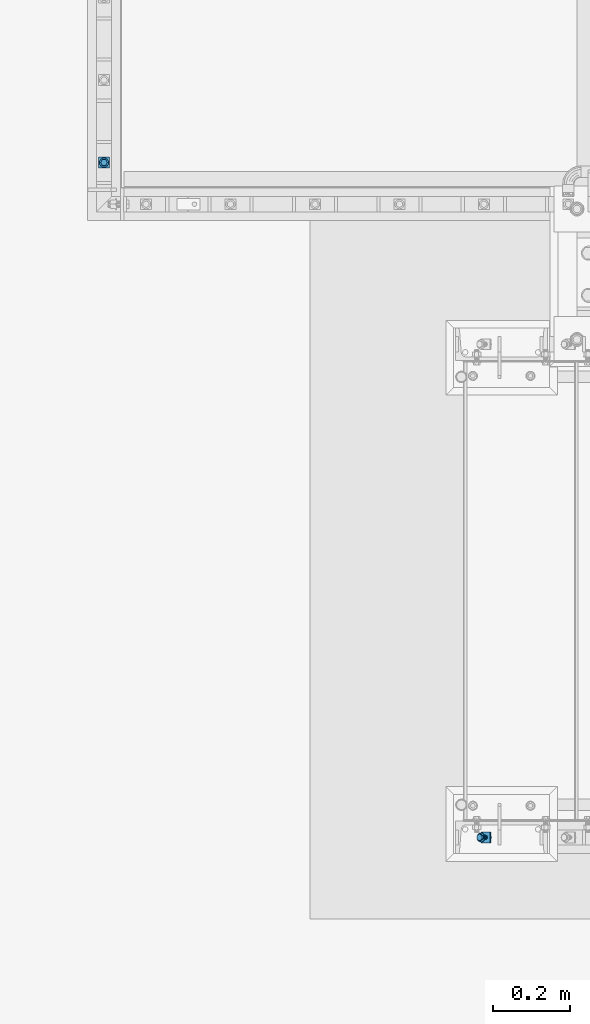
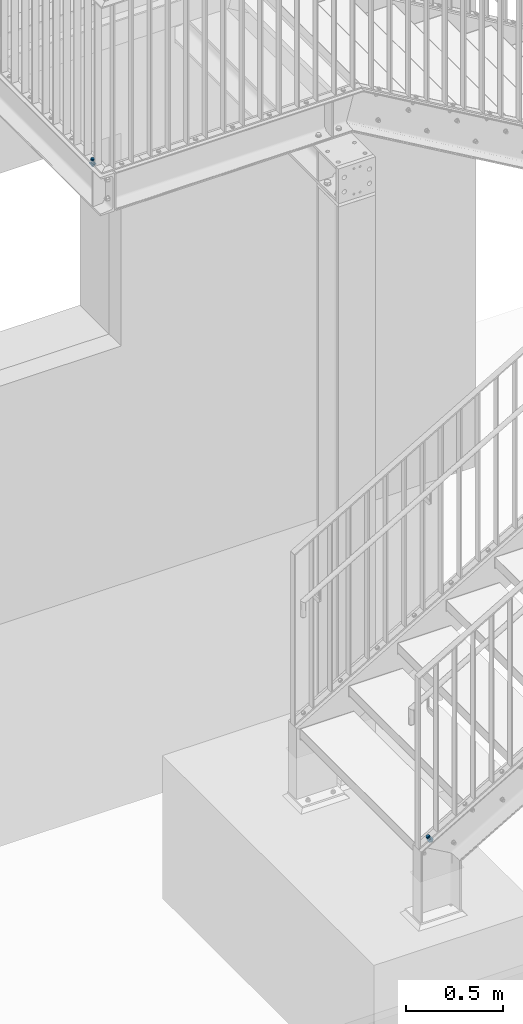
# One storey, part 46 of 145: 2 mechanical fasteners.
"""IFC2X3 building model written with IfcOpenShell, lengths in millimetres."""

from ifc_helpers import new_model, entity, si_unit, converted_unit, origin_with_axes, place, context, project, spatial, faceted_brep, element, save


model = new_model("IFC2X3")

# Units and contexts
model_context = context("Model", 3, precision=1e-09, world=origin_with_axes())
ifc_project = project(units=[si_unit("LENGTHUNIT", "METRE", prefix="MILLI"), si_unit("AREAUNIT", "SQUARE_METRE"), si_unit("VOLUMEUNIT", "CUBIC_METRE"), converted_unit("PLANEANGLEUNIT", "DEGREE", entity("IfcPlaneAngleMeasure", 0.01745329), si_unit("PLANEANGLEUNIT", "RADIAN"), dimensions=[0, 0, 0, 0, 0, 0, 0])], contexts=[model_context])

# Site, building, storey
site_placement = place(None, origin_with_axes())
site = spatial("IfcSite", under=ifc_project, at=site_placement, Name="BZ1 Grund- und Mittelschule 85716 Unterschlei?heim", CompositionType="ELEMENT")
building_placement = place(site_placement, origin_with_axes())
building = spatial("IfcBuilding", under=site, at=building_placement, Name="Struktur 1", CompositionType="ELEMENT")
storey_placement = place(building_placement, origin_with_axes())
storey = spatial("IfcBuildingStorey", under=building, at=storey_placement, Name="Default Storey", CompositionType="ELEMENT", Elevation=0.0)

# Mechanical fasteners
mechanical_fastener_1_placement = place(None, origin_with_axes())
element("IfcMechanicalFastener", 1, at=mechanical_fastener_1_placement, inside=storey, ObjectType="-", NominalDiameter=12.0, NominalLength=45.0, context=model_context, shape_type="Brep", body=[
    faceted_brep([(16699.692769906, -3162.502, -238.779049), (16700.949497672, -3162.502, -240.94021427), (16701.148823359, -3164.843083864, -240.824305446), (16699.892095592, -3164.843083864, -238.663140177), (16701.739140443, -3167.094201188, -240.481033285), (16700.482412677, -3167.094201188, -238.319868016), (16702.697763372, -3169.168842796, -239.923589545), (16701.441035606, -3169.168842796, -237.762424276), (16703.987852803, -3170.987281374, -239.173396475), (16702.731125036, -3170.987281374, -237.012231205), (16705.559831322, -3172.479635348, -238.259283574), (16704.303103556, -3172.479635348, -236.098118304), (16707.353288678, -3173.58855439, -237.216379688), (16706.096560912, -3173.58855439, -235.055214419), (16709.299303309, -3174.271423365, -236.08476303), (16708.042575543, -3174.271423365, -233.92359776), (16711.323090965, -3174.502, -234.907920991), (16710.066363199, -3174.502, -232.746755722), (16713.346878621, -3174.271423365, -233.731078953), (16712.090150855, -3174.271423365, -231.569913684), (16715.292893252, -3173.58855439, -232.599462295), (16714.036165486, -3173.58855439, -230.438297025), (16717.086350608, -3172.479635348, -231.556558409), (16715.829622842, -3172.479635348, -229.39539314), (16718.658329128, -3170.987281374, -230.642445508), (16717.401601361, -3170.987281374, -228.481280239), (16719.948418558, -3169.168842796, -229.892252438), (16718.691690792, -3169.168842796, -227.731087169), (16720.907041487, -3167.094201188, -229.334808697), (16719.650313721, -3167.094201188, -227.173643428), (16721.497358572, -3164.843083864, -228.991536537), (16720.240630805, -3164.843083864, -226.830371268), (16721.696684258, -3162.502, -228.875627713), (16720.439956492, -3162.502, -226.714462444), (16721.497358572, -3160.160916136, -228.991536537), (16720.240630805, -3160.160916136, -226.830371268), (16720.907041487, -3157.909798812, -229.334808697), (16719.650313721, -3157.909798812, -227.173643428), (16719.948418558, -3155.835157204, -229.892252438), (16718.691690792, -3155.835157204, -227.731087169), (16718.658329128, -3154.016718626, -230.642445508), (16717.401601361, -3154.016718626, -228.481280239), (16717.086350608, -3152.524364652, -231.556558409), (16715.829622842, -3152.524364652, -229.39539314), (16715.292893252, -3151.41544561, -232.599462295), (16714.036165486, -3151.41544561, -230.438297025), (16713.346878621, -3150.732576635, -233.731078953), (16712.090150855, -3150.732576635, -231.569913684), (16711.323090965, -3150.502, -234.907920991), (16710.066363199, -3150.502, -232.746755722), (16709.299303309, -3150.732576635, -236.08476303), (16708.042575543, -3150.732576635, -233.92359776), (16707.353288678, -3151.41544561, -237.216379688), (16706.096560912, -3151.41544561, -235.055214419), (16705.559831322, -3152.524364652, -238.259283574), (16704.303103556, -3152.524364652, -236.098118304), (16703.987852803, -3154.016718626, -239.173396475), (16702.731125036, -3154.016718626, -237.012231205), (16702.697763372, -3155.835157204, -239.923589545), (16701.441035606, -3155.835157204, -237.762424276), (16701.739140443, -3157.909798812, -240.481033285), (16700.482412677, -3157.909798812, -238.319868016), (16701.148823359, -3160.160916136, -240.824305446), (16699.892095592, -3160.160916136, -238.663140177)], [[[0, 1, 2, 3]], [[3, 2, 4, 5]], [[5, 4, 6, 7]], [[7, 6, 8, 9]], [[9, 8, 10, 11]], [[11, 10, 12, 13]], [[13, 12, 14, 15]], [[15, 14, 16, 17]], [[17, 16, 18, 19]], [[19, 18, 20, 21]], [[21, 20, 22, 23]], [[23, 22, 24, 25]], [[25, 24, 26, 27]], [[27, 26, 28, 29]], [[29, 28, 30, 31]], [[31, 30, 32, 33]], [[33, 32, 34, 35]], [[35, 34, 36, 37]], [[37, 36, 38, 39]], [[39, 38, 40, 41]], [[41, 40, 42, 43]], [[43, 42, 44, 45]], [[45, 44, 46, 47]], [[47, 46, 48, 49]], [[49, 48, 50, 51]], [[51, 50, 52, 53]], [[53, 52, 54, 55]], [[55, 54, 56, 57]], [[57, 56, 58, 59]], [[59, 58, 60, 61]], [[61, 60, 62, 63]], [[63, 62, 1, 0]], [[0, 3, 5, 7, 9, 11, 13, 15, 17, 19, 21, 23, 25, 27, 29, 31, 33, 35, 37, 39, 41, 43, 45, 47, 49, 51, 53, 55, 57, 59, 61, 63]], [[1, 62, 60, 58, 56, 54, 52, 50, 48, 46, 44, 42, 40, 38, 36, 34, 32, 30, 28, 26, 24, 22, 20, 18, 16, 14, 12, 10, 8, 6, 4, 2]]]),
    faceted_brep([(16716.718114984, -3166.9445, -228.878730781), (16713.500891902, -3166.9445, -223.346147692), (16706.849140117, -3171.387, -227.214172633), (16710.066363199, -3171.387, -232.746755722), (16700.197388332, -3166.9445, -231.082197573), (16703.414611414, -3166.9445, -236.614780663), (16700.197388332, -3158.0595, -231.082197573), (16703.414611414, -3158.0595, -236.614780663), (16706.849140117, -3153.617, -227.214172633), (16710.066363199, -3153.617, -232.746755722), (16713.500891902, -3158.0595, -223.346147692), (16716.718114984, -3158.0595, -228.878730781)], [[[0, 1, 2, 3]], [[3, 2, 4, 5]], [[5, 4, 6, 7]], [[7, 6, 8, 9]], [[9, 8, 10, 11]], [[11, 10, 1, 0]], [[4, 2, 1, 10, 8, 6]], [[0, 3, 5, 7, 9, 11]]]),
    faceted_brep([(16706.136294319, -3162.502, -237.924067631), (16717.117086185, -3162.502, -256.807477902), (16717.511907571, -3164.798100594, -256.57788741), (16706.531115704, -3164.798100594, -237.694477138), (16718.63626375, -3166.744640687, -255.924069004), (16707.655471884, -3166.744640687, -237.040658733), (16720.318981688, -3168.045277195, -254.945560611), (16709.338189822, -3168.045277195, -236.06215034), (16722.303882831, -3168.502, -253.791331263), (16711.323090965, -3168.502, -234.907920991), (16724.288783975, -3168.045277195, -252.637101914), (16713.307992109, -3168.045277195, -233.753691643), (16725.971501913, -3166.744640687, -251.658593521), (16714.990710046, -3166.744640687, -232.77518325), (16727.095858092, -3164.798100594, -251.004775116), (16716.115066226, -3164.798100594, -232.121364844), (16727.490679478, -3162.502, -250.775184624), (16716.509887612, -3162.502, -231.891774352), (16727.095858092, -3160.205899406, -251.004775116), (16716.115066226, -3160.205899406, -232.121364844), (16725.971501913, -3158.259359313, -251.658593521), (16714.990710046, -3158.259359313, -232.77518325), (16724.288783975, -3156.958722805, -252.637101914), (16713.307992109, -3156.958722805, -233.753691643), (16722.303882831, -3156.502, -253.791331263), (16711.323090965, -3156.502, -234.907920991), (16720.318981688, -3156.958722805, -254.945560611), (16709.338189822, -3156.958722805, -236.06215034), (16718.63626375, -3158.259359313, -255.924069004), (16707.655471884, -3158.259359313, -237.040658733), (16717.511907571, -3160.205899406, -256.57788741), (16706.531115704, -3160.205899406, -237.694477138)], [[[0, 1, 2, 3]], [[3, 2, 4, 5]], [[5, 4, 6, 7]], [[7, 6, 8, 9]], [[9, 8, 10, 11]], [[11, 10, 12, 13]], [[13, 12, 14, 15]], [[15, 14, 16, 17]], [[17, 16, 18, 19]], [[19, 18, 20, 21]], [[21, 20, 22, 23]], [[23, 22, 24, 25]], [[25, 24, 26, 27]], [[27, 26, 28, 29]], [[29, 28, 30, 31]], [[31, 30, 1, 0]], [[0, 3, 5, 7, 9, 11, 13, 15, 17, 19, 21, 23, 25, 27, 29, 31]], [[1, 30, 28, 26, 24, 22, 20, 18, 16, 14, 12, 10, 8, 6, 4, 2]]]),
    faceted_brep([(16736.540044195, -3176.644135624, -250.140069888), (16734.529279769, -3176.644135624, -246.682205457), (16710.078485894, -3176.644135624, -260.900457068), (16712.08925032, -3176.644135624, -264.358321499), (16710.078485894, -3148.359864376, -260.900457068), (16712.08925032, -3148.359864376, -264.358321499), (16734.529279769, -3148.359864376, -246.682205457), (16736.540044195, -3148.359864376, -250.140069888)], [[[0, 1, 2, 3]], [[3, 2, 4, 5]], [[5, 4, 6, 7]], [[7, 6, 1, 0]], [[4, 2, 1, 6]], [[0, 3, 5, 7]]]),
    faceted_brep([(16737.239811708, -3167.777, -261.300985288), (16732.212900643, -3167.777, -252.656324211), (16724.314647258, -3173.052, -257.249195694), (16729.341558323, -3173.052, -265.893856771), (16716.416393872, -3167.777, -261.842067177), (16721.443304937, -3167.777, -270.486728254), (16716.416393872, -3157.227, -261.842067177), (16721.443304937, -3157.227, -270.486728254), (16724.314647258, -3151.952, -257.249195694), (16729.341558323, -3151.952, -265.893856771), (16732.212900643, -3157.227, -252.656324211), (16737.239811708, -3157.227, -261.300985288)], [[[0, 1, 2, 3]], [[3, 2, 4, 5]], [[5, 4, 6, 7]], [[7, 6, 8, 9]], [[9, 8, 10, 11]], [[11, 10, 1, 0]], [[4, 2, 1, 10, 8, 6]], [[0, 3, 5, 7, 9, 11]]]),
    faceted_brep([(16724.154761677, -3162.502, -268.91000341), (16727.500666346, -3162.502, -274.663877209), (16727.895487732, -3164.798100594, -274.434286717), (16724.549583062, -3164.798100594, -268.680412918), (16729.019843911, -3166.744640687, -273.780468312), (16725.673939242, -3166.744640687, -268.026594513), (16730.702561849, -3168.045277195, -272.801959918), (16727.356657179, -3168.045277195, -267.048086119), (16732.687462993, -3168.502, -271.64773057), (16729.341558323, -3168.502, -265.893856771), (16734.672364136, -3168.045277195, -270.493501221), (16731.326459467, -3168.045277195, -264.739627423), (16736.355082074, -3166.744640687, -269.514992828), (16733.009177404, -3166.744640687, -263.761119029), (16737.479438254, -3164.798100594, -268.861174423), (16734.133533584, -3164.798100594, -263.107300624), (16737.874259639, -3162.502, -268.631583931), (16734.528354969, -3162.502, -262.877710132), (16737.479438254, -3160.205899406, -268.861174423), (16734.133533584, -3160.205899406, -263.107300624), (16736.355082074, -3158.259359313, -269.514992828), (16733.009177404, -3158.259359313, -263.761119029), (16734.672364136, -3156.958722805, -270.493501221), (16731.326459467, -3156.958722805, -264.739627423), (16732.687462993, -3156.502, -271.64773057), (16729.341558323, -3156.502, -265.893856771), (16730.702561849, -3156.958722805, -272.801959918), (16727.356657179, -3156.958722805, -267.048086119), (16729.019843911, -3158.259359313, -273.780468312), (16725.673939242, -3158.259359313, -268.026594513), (16727.895487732, -3160.205899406, -274.434286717), (16724.549583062, -3160.205899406, -268.680412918)], [[[0, 1, 2, 3]], [[3, 2, 4, 5]], [[5, 4, 6, 7]], [[7, 6, 8, 9]], [[9, 8, 10, 11]], [[11, 10, 12, 13]], [[13, 12, 14, 15]], [[15, 14, 16, 17]], [[17, 16, 18, 19]], [[19, 18, 20, 21]], [[21, 20, 22, 23]], [[23, 22, 24, 25]], [[25, 24, 26, 27]], [[27, 26, 28, 29]], [[29, 28, 30, 31]], [[31, 30, 1, 0]], [[0, 3, 5, 7, 9, 11, 13, 15, 17, 19, 21, 23, 25, 27, 29, 31]], [[1, 30, 28, 26, 24, 22, 20, 18, 16, 14, 12, 10, 8, 6, 4, 2]]]),
])
mechanical_fastener_2_placement = place(None, origin_with_axes())
element("IfcMechanicalFastener", 2, at=mechanical_fastener_2_placement, inside=storey, ObjectType="-", NominalDiameter=12.0, NominalLength=45.0, context=model_context, shape_type="Brep", body=[
    faceted_brep([(15728.34372732, -1416.009817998, 3308.000000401), (15728.34372732, -1416.009817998, 3310.500000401), (15726.002643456, -1415.779241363, 3310.500000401), (15726.002643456, -1415.779241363, 3308.000000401), (15723.751526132, -1415.096372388, 3310.500000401), (15723.751526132, -1415.096372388, 3308.000000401), (15721.676884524, -1413.987453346, 3310.500000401), (15721.676884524, -1413.987453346, 3308.000000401), (15719.858445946, -1412.495099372, 3310.500000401), (15719.858445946, -1412.495099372, 3308.000000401), (15718.366091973, -1410.676660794, 3310.500000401), (15718.366091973, -1410.676660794, 3308.000000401), (15717.25717293, -1408.602019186, 3310.500000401), (15717.25717293, -1408.602019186, 3308.000000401), (15716.574303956, -1406.350901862, 3310.500000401), (15716.574303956, -1406.350901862, 3308.000000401), (15716.34372732, -1404.009817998, 3310.500000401), (15716.34372732, -1404.009817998, 3308.000000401), (15716.574303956, -1401.668734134, 3310.500000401), (15716.574303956, -1401.668734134, 3308.000000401), (15717.25717293, -1399.41761681, 3310.500000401), (15717.25717293, -1399.41761681, 3308.000000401), (15718.366091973, -1397.342975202, 3310.500000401), (15718.366091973, -1397.342975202, 3308.000000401), (15719.858445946, -1395.524536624, 3310.500000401), (15719.858445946, -1395.524536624, 3308.000000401), (15721.676884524, -1394.03218265, 3310.500000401), (15721.676884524, -1394.03218265, 3308.000000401), (15723.751526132, -1392.923263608, 3310.500000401), (15723.751526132, -1392.923263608, 3308.000000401), (15726.002643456, -1392.240394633, 3310.500000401), (15726.002643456, -1392.240394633, 3308.000000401), (15728.34372732, -1392.009817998, 3310.500000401), (15728.34372732, -1392.009817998, 3308.000000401), (15730.684811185, -1392.240394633, 3310.500000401), (15730.684811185, -1392.240394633, 3308.000000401), (15732.935928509, -1392.923263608, 3310.500000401), (15732.935928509, -1392.923263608, 3308.000000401), (15735.010570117, -1394.03218265, 3310.500000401), (15735.010570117, -1394.03218265, 3308.000000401), (15736.829008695, -1395.524536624, 3310.500000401), (15736.829008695, -1395.524536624, 3308.000000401), (15738.321362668, -1397.342975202, 3310.500000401), (15738.321362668, -1397.342975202, 3308.000000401), (15739.430281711, -1399.41761681, 3310.500000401), (15739.430281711, -1399.41761681, 3308.000000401), (15740.113150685, -1401.668734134, 3310.500000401), (15740.113150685, -1401.668734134, 3308.000000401), (15740.34372732, -1404.009817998, 3310.500000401), (15740.34372732, -1404.009817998, 3308.000000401), (15740.113150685, -1406.350901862, 3310.500000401), (15740.113150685, -1406.350901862, 3308.000000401), (15739.430281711, -1408.602019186, 3310.500000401), (15739.430281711, -1408.602019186, 3308.000000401), (15738.321362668, -1410.676660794, 3310.500000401), (15738.321362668, -1410.676660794, 3308.000000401), (15736.829008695, -1412.495099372, 3310.500000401), (15736.829008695, -1412.495099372, 3308.000000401), (15735.010570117, -1413.987453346, 3310.500000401), (15735.010570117, -1413.987453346, 3308.000000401), (15732.935928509, -1415.096372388, 3310.500000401), (15732.935928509, -1415.096372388, 3308.000000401), (15730.684811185, -1415.779241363, 3310.500000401), (15730.684811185, -1415.779241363, 3308.000000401)], [[[0, 1, 2, 3]], [[3, 2, 4, 5]], [[5, 4, 6, 7]], [[7, 6, 8, 9]], [[9, 8, 10, 11]], [[11, 10, 12, 13]], [[13, 12, 14, 15]], [[15, 14, 16, 17]], [[17, 16, 18, 19]], [[19, 18, 20, 21]], [[21, 20, 22, 23]], [[23, 22, 24, 25]], [[25, 24, 26, 27]], [[27, 26, 28, 29]], [[29, 28, 30, 31]], [[31, 30, 32, 33]], [[33, 32, 34, 35]], [[35, 34, 36, 37]], [[37, 36, 38, 39]], [[39, 38, 40, 41]], [[41, 40, 42, 43]], [[43, 42, 44, 45]], [[45, 44, 46, 47]], [[47, 46, 48, 49]], [[49, 48, 50, 51]], [[51, 50, 52, 53]], [[53, 52, 54, 55]], [[55, 54, 56, 57]], [[57, 56, 58, 59]], [[59, 58, 60, 61]], [[61, 60, 62, 63]], [[63, 62, 1, 0]], [[2, 1, 62, 60, 58, 56, 54, 52, 50, 48, 46, 44, 42, 40, 38, 36, 34, 32, 30, 28, 26, 24, 22, 20, 18, 16, 14, 12, 10, 8, 6, 4]], [[63, 0, 3, 5, 7, 9, 11, 13, 15, 17, 19, 21, 23, 25, 27, 29, 31, 33, 35, 37, 39, 41, 43, 45, 47, 49, 51, 53, 55, 57, 59, 61]]]),
    faceted_brep([(15723.90122732, -1396.315182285, 3316.900000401), (15723.90122732, -1396.315182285, 3310.500000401), (15719.45872732, -1404.009817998, 3310.500000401), (15719.45872732, -1404.009817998, 3316.900000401), (15723.90122732, -1411.704453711, 3310.500000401), (15723.90122732, -1411.704453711, 3316.900000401), (15732.78622732, -1411.704453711, 3310.500000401), (15732.78622732, -1411.704453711, 3316.900000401), (15737.22872732, -1404.009817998, 3310.500000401), (15737.22872732, -1404.009817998, 3316.900000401), (15732.78622732, -1396.315182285, 3310.500000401), (15732.78622732, -1396.315182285, 3316.900000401)], [[[0, 1, 2, 3]], [[3, 2, 4, 5]], [[5, 4, 6, 7]], [[7, 6, 8, 9]], [[9, 8, 10, 11]], [[11, 10, 1, 0]], [[3, 5, 7, 9, 11, 0]], [[2, 1, 10, 8, 6, 4]]]),
    faceted_brep([(15728.34372732, -1410.009817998, 3286.317178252), (15728.34372732, -1410.009817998, 3308.000000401), (15726.047626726, -1409.553095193, 3308.000000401), (15726.047626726, -1409.553095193, 3286.317178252), (15724.101086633, -1408.252458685, 3308.000000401), (15724.101086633, -1408.252458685, 3286.317178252), (15722.800450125, -1406.305918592, 3308.000000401), (15722.800450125, -1406.305918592, 3286.317178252), (15722.34372732, -1404.009817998, 3308.000000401), (15722.34372732, -1404.009817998, 3286.317178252), (15722.800450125, -1401.713717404, 3308.000000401), (15722.800450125, -1401.713717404, 3286.317178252), (15724.101086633, -1399.767177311, 3308.000000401), (15724.101086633, -1399.767177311, 3286.317178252), (15726.047626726, -1398.466540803, 3308.000000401), (15726.047626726, -1398.466540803, 3286.317178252), (15728.34372732, -1398.009817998, 3308.000000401), (15728.34372732, -1398.009817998, 3286.317178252), (15730.639827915, -1398.466540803, 3308.000000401), (15730.639827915, -1398.466540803, 3286.317178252), (15732.586368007, -1399.767177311, 3308.000000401), (15732.586368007, -1399.767177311, 3286.317178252), (15733.887004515, -1401.713717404, 3308.000000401), (15733.887004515, -1401.713717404, 3286.317178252), (15734.34372732, -1404.009817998, 3308.000000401), (15734.34372732, -1404.009817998, 3286.317178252), (15733.887004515, -1406.305918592, 3308.000000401), (15733.887004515, -1406.305918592, 3286.317178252), (15732.586368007, -1408.252458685, 3308.000000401), (15732.586368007, -1408.252458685, 3286.317178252), (15730.639827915, -1409.553095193, 3308.000000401), (15730.639827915, -1409.553095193, 3286.317178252)], [[[0, 1, 2, 3]], [[3, 2, 4, 5]], [[5, 4, 6, 7]], [[7, 6, 8, 9]], [[9, 8, 10, 11]], [[11, 10, 12, 13]], [[13, 12, 14, 15]], [[15, 14, 16, 17]], [[17, 16, 18, 19]], [[19, 18, 20, 21]], [[21, 20, 22, 23]], [[23, 22, 24, 25]], [[25, 24, 26, 27]], [[27, 26, 28, 29]], [[29, 28, 30, 31]], [[31, 30, 1, 0]], [[2, 1, 30, 28, 26, 24, 22, 20, 18, 16, 14, 12, 10, 8, 6, 4]], [[31, 0, 3, 5, 7, 9, 11, 13, 15, 17, 19, 21, 23, 25, 27, 29]]]),
    faceted_brep([(15714.201591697, -1389.867682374, 3286.317178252), (15714.201591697, -1389.867682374, 3282.317178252), (15714.201591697, -1418.151953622, 3282.317178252), (15714.201591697, -1418.151953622, 3286.317178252), (15742.485862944, -1418.151953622, 3282.317178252), (15742.485862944, -1418.151953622, 3286.317178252), (15742.485862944, -1389.867682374, 3282.317178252), (15742.485862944, -1389.867682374, 3286.317178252)], [[[0, 1, 2, 3]], [[3, 2, 4, 5]], [[5, 4, 6, 7]], [[7, 6, 1, 0]], [[3, 5, 7, 0]], [[2, 1, 6, 4]]]),
    faceted_brep([(15723.06872732, -1394.873249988, 3282.317178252), (15723.06872732, -1394.873249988, 3272.317178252), (15717.79372732, -1404.009817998, 3272.317178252), (15717.79372732, -1404.009817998, 3282.317178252), (15723.06872732, -1413.146386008, 3272.317178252), (15723.06872732, -1413.146386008, 3282.317178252), (15733.61872732, -1413.146386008, 3272.317178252), (15733.61872732, -1413.146386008, 3282.317178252), (15738.89372732, -1404.009817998, 3272.317178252), (15738.89372732, -1404.009817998, 3282.317178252), (15733.61872732, -1394.873249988, 3272.317178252), (15733.61872732, -1394.873249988, 3282.317178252)], [[[0, 1, 2, 3]], [[3, 2, 4, 5]], [[5, 4, 6, 7]], [[7, 6, 8, 9]], [[9, 8, 10, 11]], [[11, 10, 1, 0]], [[3, 5, 7, 9, 11, 0]], [[2, 1, 10, 8, 6, 4]]]),
    faceted_brep([(15728.34372732, -1410.009817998, 3265.500000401), (15728.34372732, -1410.009817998, 3272.317178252), (15726.047626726, -1409.553095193, 3272.317178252), (15726.047626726, -1409.553095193, 3265.500000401), (15724.101086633, -1408.252458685, 3272.317178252), (15724.101086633, -1408.252458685, 3265.500000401), (15722.800450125, -1406.305918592, 3272.317178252), (15722.800450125, -1406.305918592, 3265.500000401), (15722.34372732, -1404.009817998, 3272.317178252), (15722.34372732, -1404.009817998, 3265.500000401), (15722.800450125, -1401.713717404, 3272.317178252), (15722.800450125, -1401.713717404, 3265.500000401), (15724.101086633, -1399.767177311, 3272.317178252), (15724.101086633, -1399.767177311, 3265.500000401), (15726.047626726, -1398.466540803, 3272.317178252), (15726.047626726, -1398.466540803, 3265.500000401), (15728.34372732, -1398.009817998, 3272.317178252), (15728.34372732, -1398.009817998, 3265.500000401), (15730.639827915, -1398.466540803, 3272.317178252), (15730.639827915, -1398.466540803, 3265.500000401), (15732.586368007, -1399.767177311, 3272.317178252), (15732.586368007, -1399.767177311, 3265.500000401), (15733.887004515, -1401.713717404, 3272.317178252), (15733.887004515, -1401.713717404, 3265.500000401), (15734.34372732, -1404.009817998, 3272.317178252), (15734.34372732, -1404.009817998, 3265.500000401), (15733.887004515, -1406.305918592, 3272.317178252), (15733.887004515, -1406.305918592, 3265.500000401), (15732.586368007, -1408.252458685, 3272.317178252), (15732.586368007, -1408.252458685, 3265.500000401), (15730.639827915, -1409.553095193, 3272.317178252), (15730.639827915, -1409.553095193, 3265.500000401)], [[[0, 1, 2, 3]], [[3, 2, 4, 5]], [[5, 4, 6, 7]], [[7, 6, 8, 9]], [[9, 8, 10, 11]], [[11, 10, 12, 13]], [[13, 12, 14, 15]], [[15, 14, 16, 17]], [[17, 16, 18, 19]], [[19, 18, 20, 21]], [[21, 20, 22, 23]], [[23, 22, 24, 25]], [[25, 24, 26, 27]], [[27, 26, 28, 29]], [[29, 28, 30, 31]], [[31, 30, 1, 0]], [[2, 1, 30, 28, 26, 24, 22, 20, 18, 16, 14, 12, 10, 8, 6, 4]], [[31, 0, 3, 5, 7, 9, 11, 13, 15, 17, 19, 21, 23, 25, 27, 29]]]),
])

save(model, "model.ifc")
